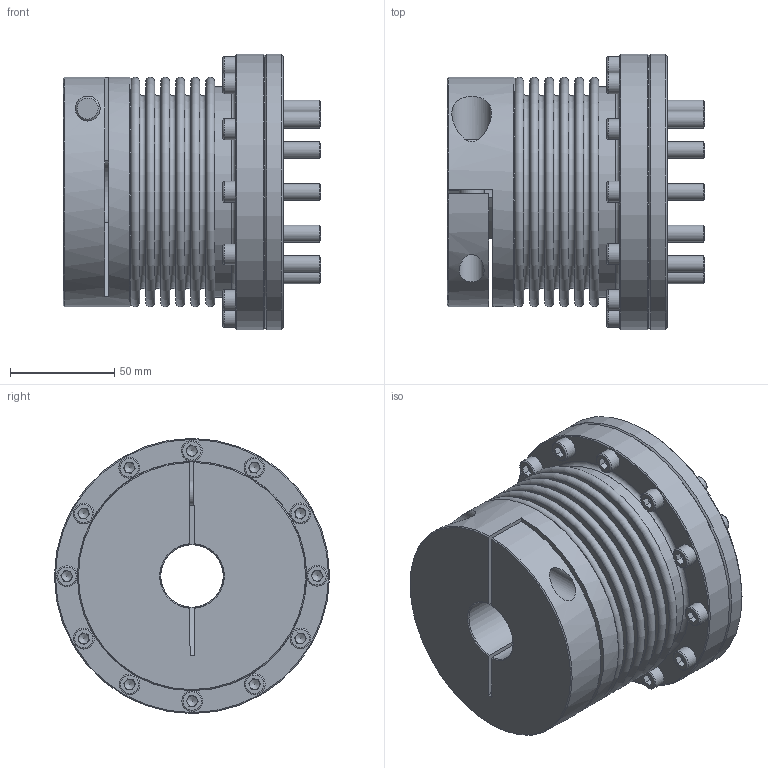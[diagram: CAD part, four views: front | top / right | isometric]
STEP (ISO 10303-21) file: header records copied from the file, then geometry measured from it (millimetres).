
FILE_DESCRIPTION( ( 'Unknown' ), '1' );
FILE_NAME( 'C:/Users/skarpstein/Desktop/KB4F/KB4F-300-101.stp', 'Unknown', ( 'Unknown' ), ( 'Unknown' ), 'PSStep 16.0.42', 'Unknown', ' ' );
FILE_SCHEMA( ( 'AUTOMOTIVE_DESIGN { 1 0 10303 214 1 1 1 1 }' ) );
Length unit declared in the file: millimetre
Products named in the file (8): Assem1; Socket Head Cap Screw_DIN_DIN 912 M12 x 35 --- 35N_2; KN300C_Standard_0; ISO 4017 - M8 x 30-N; Kupplungsflansch F300; Flansch A80-F300; Socket Head Cap Screw_DIN_DIN 912 M6 x 20 --- 20N; BL300_Standard_0
Assembly tree (29 placements, depth 2):
  Assem1
    Socket Head Cap Screw_DIN_DIN 912 M12 x 35 --- 35N_2
    KN300C_Standard_0
    ISO 4017 - M8 x 30-N  x12
    Kupplungsflansch F300
    Flansch A80-F300
    Socket Head Cap Screw_DIN_DIN 912 M6 x 20 --- 20N  x12
    BL300_Standard_0
Bounding box: 123.7 x 132 x 132 mm (x, y, z)
Volume: 553926.3 mm3; surface area: 225948.4 mm2
Topology: 29 solids, 29 shells, 711 faces, 1541 edges, 942 vertices
Faces by surface type: plane 419, cone 125, cylinder 105, torus 62
Full cylindrical faces by diameter (mm): 4.917 x12, 6 x12, 6.6 x12, 8 x12, 9 x12, 10 x12, 12 x2, 12.5 x1, 13 x12, 18 x1, 19 x1, 30 x1, 60 x1, 64 x1, 99.8 x3, 100 x1, 101 x2, 105 x2, 110 x1, 132 x2
Entity records: 7301 total; most frequent: CARTESIAN_POINT 1068, DIRECTION 987, ORIENTED_EDGE 640, AXIS2_PLACEMENT_3D 453, EDGE_LOOP 426, EDGE_CURVE 320, FACE_OUTER_BOUND 293, VERTEX_POINT 280
